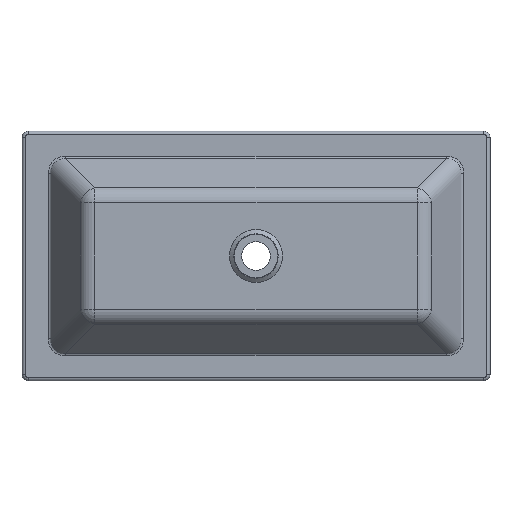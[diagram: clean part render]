
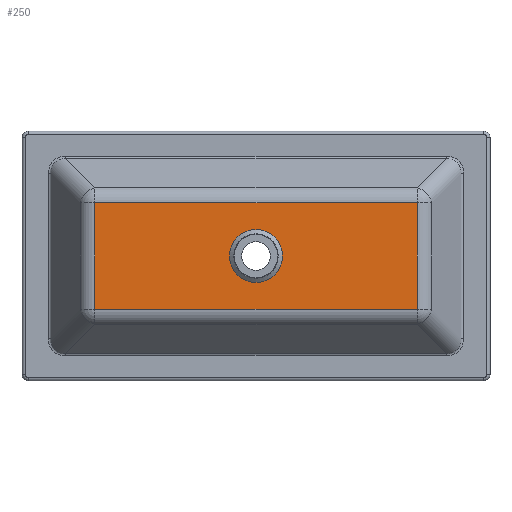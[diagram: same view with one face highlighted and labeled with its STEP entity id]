
A CAD part, front view. The second image highlights one B-rep face of the part: STEP entity #250.
In plain terms, the highlighted planar face has unit normal (0, -1, 0).
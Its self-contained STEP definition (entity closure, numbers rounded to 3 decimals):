
#86 = VECTOR ( 'NONE', #2345, 1000. ) ;
#126 = CARTESIAN_POINT ( 'NONE',  ( -258.218, -117., 85.718 ) ) ;
#133 = EDGE_CURVE ( 'NONE', #624, #1822, #1562, .T. ) ;
#145 = FACE_OUTER_BOUND ( 'NONE', #1396, .T. ) ;
#221 = EDGE_CURVE ( 'NONE', #2174, #2174, #1779, .T. ) ;
#250 = ADVANCED_FACE ( 'NONE', ( #145, #734 ), #358, .F. ) ;
#296 = DIRECTION ( 'NONE',  ( 0., 0., -1. ) ) ;
#319 = EDGE_CURVE ( 'NONE', #1663, #2164, #1139, .T. ) ;
#358 = PLANE ( 'NONE',  #401 ) ;
#384 = DIRECTION ( 'NONE',  ( 0., 0., 1. ) ) ;
#392 = VECTOR ( 'NONE', #2004, 1000. ) ;
#401 = AXIS2_PLACEMENT_3D ( 'NONE', #1736, #1175, #384 ) ;
#464 = CARTESIAN_POINT ( 'NONE',  ( -258.218, -117., 0. ) ) ;
#624 = VERTEX_POINT ( 'NONE', #1868 ) ;
#684 = CARTESIAN_POINT ( 'NONE',  ( 258.218, -117., 0. ) ) ;
#734 = FACE_BOUND ( 'NONE', #878, .T. ) ;
#774 = CARTESIAN_POINT ( 'NONE',  ( 0., -117., 85.718 ) ) ;
#831 = CARTESIAN_POINT ( 'NONE',  ( 0., -117., -85.718 ) ) ;
#878 = EDGE_LOOP ( 'NONE', ( #1188 ) ) ;
#960 = VECTOR ( 'NONE', #296, 1000. ) ;
#990 = DIRECTION ( 'NONE',  ( 0., -1., 0. ) ) ;
#1090 = VECTOR ( 'NONE', #1438, 1000. ) ;
#1139 = LINE ( 'NONE', #774, #86 ) ;
#1175 = DIRECTION ( 'NONE',  ( 0., 1., 0. ) ) ;
#1188 = ORIENTED_EDGE ( 'NONE', *, *, #221, .F. ) ;
#1396 = EDGE_LOOP ( 'NONE', ( #1910, #1781, #1890, #1427 ) ) ;
#1427 = ORIENTED_EDGE ( 'NONE', *, *, #1584, .F. ) ;
#1438 = DIRECTION ( 'NONE',  ( 0., 0., 1. ) ) ;
#1469 = CARTESIAN_POINT ( 'NONE',  ( -258.218, -117., -85.718 ) ) ;
#1498 = EDGE_CURVE ( 'NONE', #1822, #1663, #2124, .T. ) ;
#1562 = LINE ( 'NONE', #831, #392 ) ;
#1584 = EDGE_CURVE ( 'NONE', #2164, #624, #1998, .T. ) ;
#1641 = AXIS2_PLACEMENT_3D ( 'NONE', #2158, #990, #2351 ) ;
#1663 = VERTEX_POINT ( 'NONE', #126 ) ;
#1736 = CARTESIAN_POINT ( 'NONE',  ( 0., -117., 0. ) ) ;
#1779 = CIRCLE ( 'NONE', #1641, 42.368 ) ;
#1781 = ORIENTED_EDGE ( 'NONE', *, *, #1498, .F. ) ;
#1822 = VERTEX_POINT ( 'NONE', #1469 ) ;
#1868 = CARTESIAN_POINT ( 'NONE',  ( 258.218, -117., -85.718 ) ) ;
#1890 = ORIENTED_EDGE ( 'NONE', *, *, #133, .F. ) ;
#1910 = ORIENTED_EDGE ( 'NONE', *, *, #319, .F. ) ;
#1998 = LINE ( 'NONE', #684, #960 ) ;
#2004 = DIRECTION ( 'NONE',  ( -1., 0., 0. ) ) ;
#2124 = LINE ( 'NONE', #464, #1090 ) ;
#2158 = CARTESIAN_POINT ( 'NONE',  ( 0., -117., 0. ) ) ;
#2164 = VERTEX_POINT ( 'NONE', #2334 ) ;
#2174 = VERTEX_POINT ( 'NONE', #2282 ) ;
#2282 = CARTESIAN_POINT ( 'NONE',  ( 0., -117., 42.368 ) ) ;
#2334 = CARTESIAN_POINT ( 'NONE',  ( 258.218, -117., 85.718 ) ) ;
#2345 = DIRECTION ( 'NONE',  ( 1., 0., 0. ) ) ;
#2351 = DIRECTION ( 'NONE',  ( 0., 0., 1. ) ) ;
